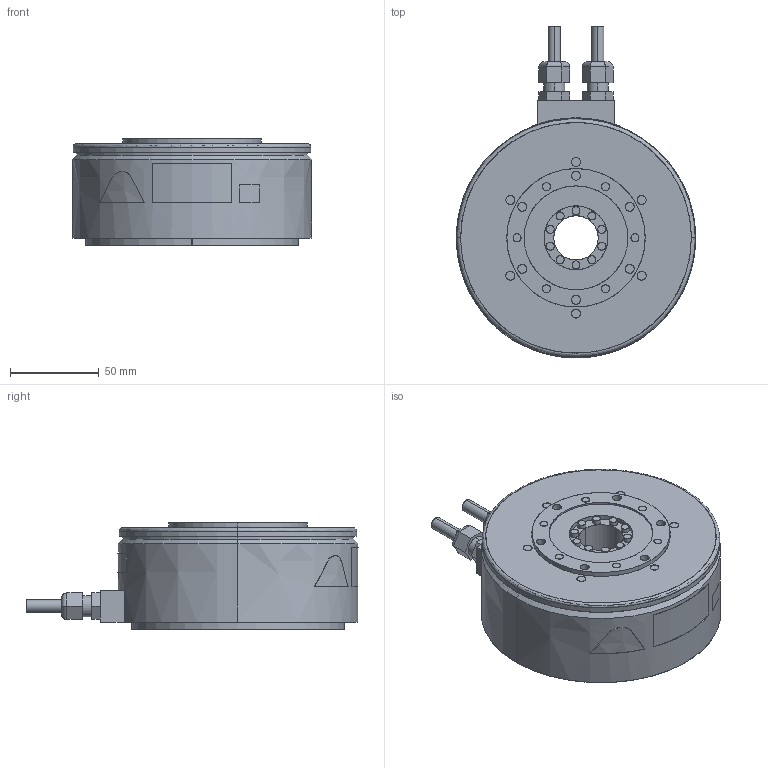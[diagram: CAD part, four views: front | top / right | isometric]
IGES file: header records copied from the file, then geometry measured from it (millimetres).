
Start section: SolidWorks IGES file using analytic representation for surfaces
Global section: file name: D:\YASKAWA\sgm7f_04b_a4_.IGS; native system: SolidWorks 2006 by SolidWorks Corporation; preprocessor: SolidWorks 2006 by SolidWorks Corporation; author: yamanouchi; date: 160724.152647; units: millimetre
Bounding box: 135 x 187.2 x 60 mm (x, y, z)
Surface area: 80828 mm2 (no closed solid volume)
Topology: 0 solids, 0 shells, 250 faces, 5386 edges, 5386 vertices
Faces by surface type: revolution 141, bspline 109
